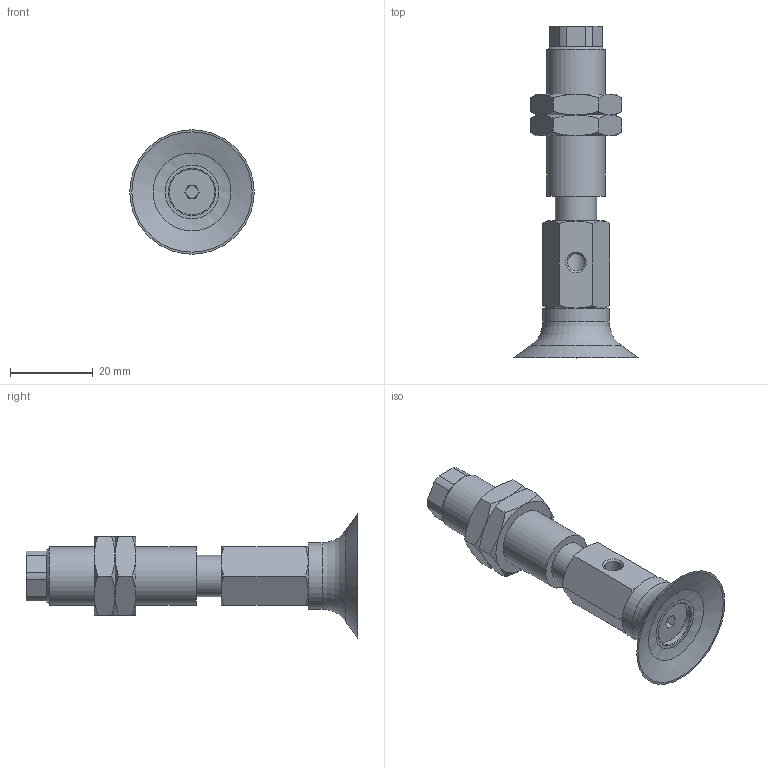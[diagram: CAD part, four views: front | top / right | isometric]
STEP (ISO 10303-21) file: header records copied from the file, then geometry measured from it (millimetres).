
FILE_DESCRIPTION(('STEP AP203'),'1');
FILE_NAME('.stp','2025-04-09T07:11:59',(' '),(' '),'Spatial InterOp 3D',' ',' ');
FILE_SCHEMA(('CONFIG_CONTROL_DESIGN'));
Length unit declared in the file: millimetre
Products named in the file (7): BNABPFYS-30-6-※; TN-PF-30-M6-NAPF; CONNECTOR-30-6; Nut-30-6-s; NAPFTS-30-6-FBODY; NAPFTS-30-6-MBODY; BPFG-30-※
Assembly tree (7 placements, depth 2):
  BNABPFYS-30-6-※
    TN-PF-30-M6-NAPF
    CONNECTOR-30-6
    Nut-30-6-s  x2
    NAPFTS-30-6-FBODY
    NAPFTS-30-6-MBODY
    BPFG-30-※
Bounding box: 30 x 80 x 30 mm (x, y, z)
Volume: 14067.6 mm3; surface area: 11060 mm2
Topology: 7 solids, 7 shells, 145 faces, 304 edges, 183 vertices
Faces by surface type: plane 66, cone 51, cylinder 22, torus 5, bspline 1
Full cylindrical faces by diameter (mm): 3 x2, 4.134 x2, 4.917 x1, 5 x1, 6 x2, 10 x2, 11 x2, 12.917 x2, 14 x1, 16 x1
Entity records: 3727 total; most frequent: CARTESIAN_POINT 924, DIRECTION 518, ORIENTED_EDGE 442, EDGE_CURVE 221, AXIS2_PLACEMENT_3D 219, EDGE_LOOP 176, VERTEX_POINT 153, FACE_OUTER_BOUND 143
